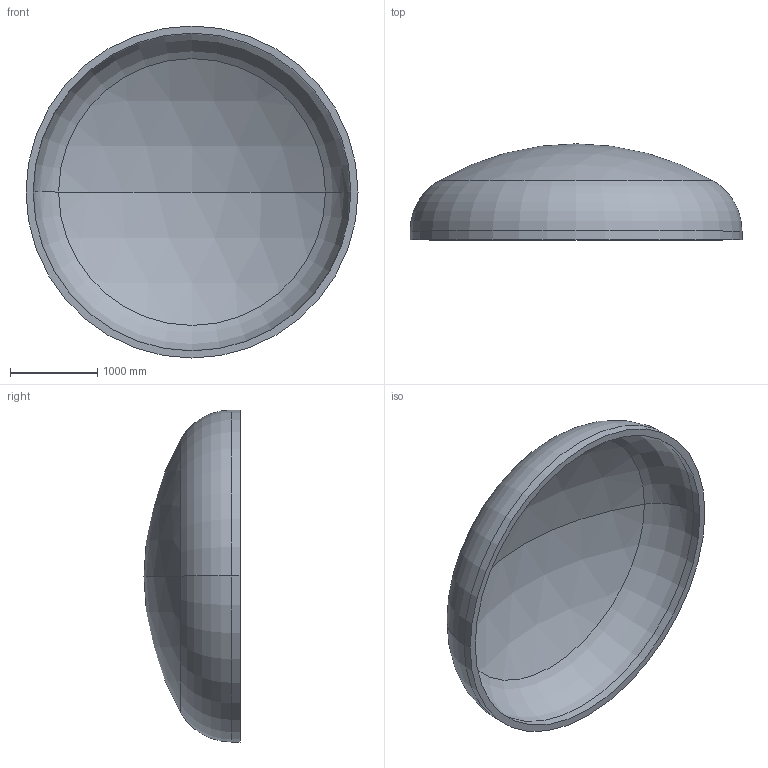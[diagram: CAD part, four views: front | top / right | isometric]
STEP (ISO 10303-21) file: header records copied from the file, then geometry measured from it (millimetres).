
FILE_DESCRIPTION (( 'STEP AP203' ), '1' );
FILE_NAME ('DIN 28013 Korbbogenform_-_Boden DIN 28013 - 3800 x 100 - I - s=82.step', '2016-07-01T21:41:40', ( '' ), ( '' ), 'SwSTEP 2.0', 'SolidWorks 2013', '' );
FILE_SCHEMA (( 'CONFIG_CONTROL_DESIGN' ));
Length unit declared in the file: millimetre
Products named in the file (1): DIN 28013 Korbbogenform_-_Boden DIN 28013 - 3800 x 100 - I - s=82
Bounding box: 3800 x 1099.09 x 3800 mm (x, y, z)
Volume: 1347659900.1 mm3; surface area: 33841621 mm2
Topology: 1 solids, 1 shells, 13 faces, 24 edges, 14 vertices
Faces by surface type: torus 4, cylinder 4, sphere 4, plane 1
Entity records: 407 total; most frequent: DIRECTION 72, CARTESIAN_POINT 52, ORIENTED_EDGE 48, AXIS2_PLACEMENT_3D 34, EDGE_CURVE 24, CIRCLE 20, EDGE_LOOP 14, VERTEX_POINT 14
